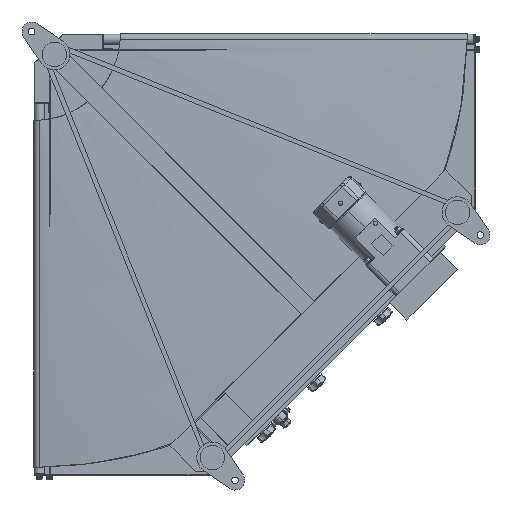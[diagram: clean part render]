
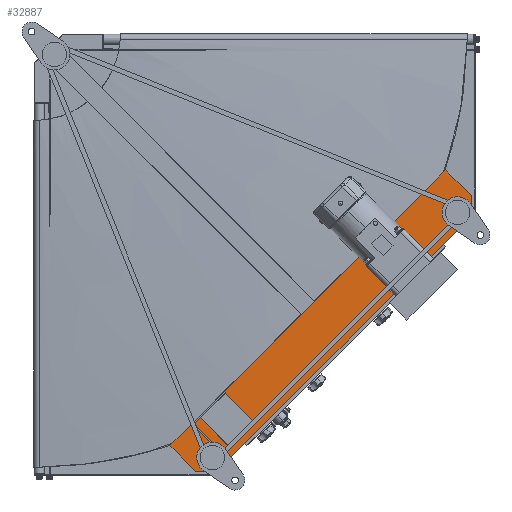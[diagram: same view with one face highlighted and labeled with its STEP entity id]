
A CAD part, front view. The second image highlights one B-rep face of the part: STEP entity #32887.
In plain terms, the highlighted planar face has unit normal (0, -1, 0).
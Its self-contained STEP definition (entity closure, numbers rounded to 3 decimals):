
#1490 = CARTESIAN_POINT ( 'NONE',  ( 266.226, -167.5, -807.162 ) ) ;
#2664 = LINE ( 'NONE', #7294, #27297 ) ;
#3270 = LINE ( 'NONE', #11333, #8292 ) ;
#4797 = VERTEX_POINT ( 'NONE', #33683 ) ;
#4820 = CARTESIAN_POINT ( 'NONE',  ( 0., -167.5, 0. ) ) ;
#5380 = PLANE ( 'NONE',  #21027 ) ;
#5580 = VECTOR ( 'NONE', #8910, 1000. ) ;
#5699 = FACE_OUTER_BOUND ( 'NONE', #10685, .T. ) ;
#7294 = CARTESIAN_POINT ( 'NONE',  ( 266.226, -167.5, -807.162 ) ) ;
#7942 = ORIENTED_EDGE ( 'NONE', *, *, #31815, .F. ) ;
#8292 = VECTOR ( 'NONE', #27537, 1000. ) ;
#8380 = CARTESIAN_POINT ( 'NONE',  ( 856.66, -167.5, -315.723 ) ) ;
#8863 = VERTEX_POINT ( 'NONE', #37554 ) ;
#8873 = VECTOR ( 'NONE', #39647, 1000. ) ;
#8910 = DIRECTION ( 'NONE',  ( 0., 0., -1. ) ) ;
#10510 = DIRECTION ( 'NONE',  ( -0.707, 0., 0.707 ) ) ;
#10685 = EDGE_LOOP ( 'NONE', ( #26331, #30243, #7942, #37642, #14201, #25179 ) ) ;
#11107 = EDGE_CURVE ( 'NONE', #4797, #16209, #2664, .T. ) ;
#11265 = DIRECTION ( 'NONE',  ( 0., 0., 1. ) ) ;
#11333 = CARTESIAN_POINT ( 'NONE',  ( 266.226, -167.5, -807.162 ) ) ;
#11761 = CARTESIAN_POINT ( 'NONE',  ( 315.723, -167.5, -856.66 ) ) ;
#14201 = ORIENTED_EDGE ( 'NONE', *, *, #40441, .F. ) ;
#15511 = VERTEX_POINT ( 'NONE', #17640 ) ;
#16209 = VERTEX_POINT ( 'NONE', #1490 ) ;
#16418 = VERTEX_POINT ( 'NONE', #8380 ) ;
#17640 = CARTESIAN_POINT ( 'NONE',  ( 856.66, -167.5, -358.15 ) ) ;
#19169 = LINE ( 'NONE', #35131, #26245 ) ;
#21027 = AXIS2_PLACEMENT_3D ( 'NONE', #4820, #30529, #11265 ) ;
#24936 = VERTEX_POINT ( 'NONE', #29222 ) ;
#25179 = ORIENTED_EDGE ( 'NONE', *, *, #37926, .F. ) ;
#26245 = VECTOR ( 'NONE', #41674, 1000. ) ;
#26331 = ORIENTED_EDGE ( 'NONE', *, *, #34552, .F. ) ;
#26550 = LINE ( 'NONE', #11761, #28047 ) ;
#27297 = VECTOR ( 'NONE', #10510, 1000. ) ;
#27476 = LINE ( 'NONE', #30234, #8873 ) ;
#27537 = DIRECTION ( 'NONE',  ( 0.707, 0., 0.707 ) ) ;
#28047 = VECTOR ( 'NONE', #40888, 1000. ) ;
#28257 = EDGE_CURVE ( 'NONE', #24936, #16418, #19169, .T. ) ;
#29222 = CARTESIAN_POINT ( 'NONE',  ( 807.162, -167.5, -266.226 ) ) ;
#30234 = CARTESIAN_POINT ( 'NONE',  ( 358.15, -167.5, -856.66 ) ) ;
#30243 = ORIENTED_EDGE ( 'NONE', *, *, #28257, .F. ) ;
#30529 = DIRECTION ( 'NONE',  ( 0., 1., 0. ) ) ;
#31408 = CARTESIAN_POINT ( 'NONE',  ( 856.66, -167.5, -358.15 ) ) ;
#31815 = EDGE_CURVE ( 'NONE', #16209, #24936, #3270, .T. ) ;
#32887 = ADVANCED_FACE ( 'NONE', ( #5699 ), #5380, .F. ) ;
#33683 = CARTESIAN_POINT ( 'NONE',  ( 315.723, -167.5, -856.66 ) ) ;
#34552 = EDGE_CURVE ( 'NONE', #16418, #15511, #39222, .T. ) ;
#35131 = CARTESIAN_POINT ( 'NONE',  ( 807.162, -167.5, -266.226 ) ) ;
#37554 = CARTESIAN_POINT ( 'NONE',  ( 358.15, -167.5, -856.66 ) ) ;
#37642 = ORIENTED_EDGE ( 'NONE', *, *, #11107, .F. ) ;
#37926 = EDGE_CURVE ( 'NONE', #15511, #8863, #27476, .T. ) ;
#39222 = LINE ( 'NONE', #31408, #5580 ) ;
#39647 = DIRECTION ( 'NONE',  ( -0.707, 0., -0.707 ) ) ;
#40441 = EDGE_CURVE ( 'NONE', #8863, #4797, #26550, .T. ) ;
#40888 = DIRECTION ( 'NONE',  ( -1., 0., 0. ) ) ;
#41674 = DIRECTION ( 'NONE',  ( 0.707, 0., -0.707 ) ) ;
